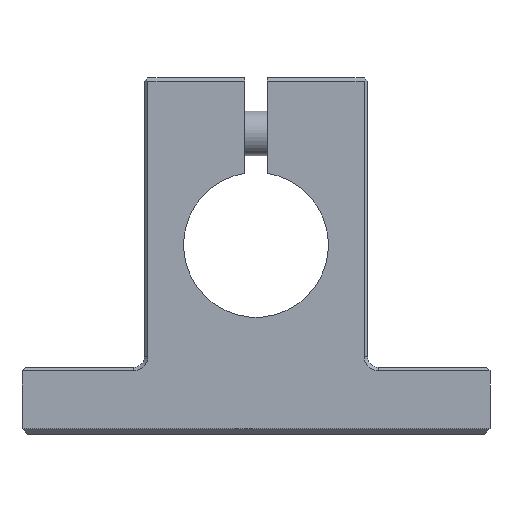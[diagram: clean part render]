
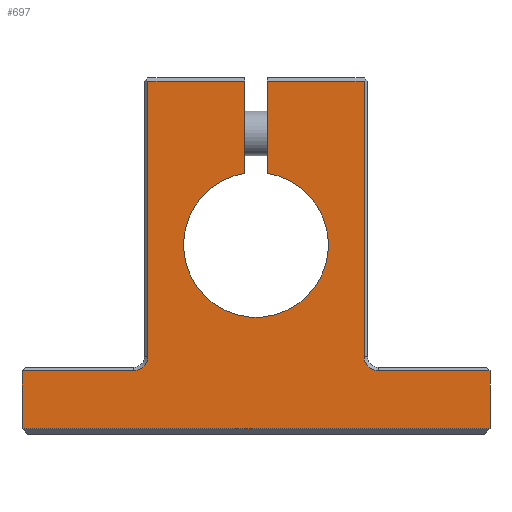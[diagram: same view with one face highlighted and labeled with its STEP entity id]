
A CAD part, left-side view. The second image highlights one B-rep face of the part: STEP entity #697.
In plain terms, the highlighted planar face has unit normal (-1, 0, 0).
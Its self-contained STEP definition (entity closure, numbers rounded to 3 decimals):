
#441=CARTESIAN_POINT('',(0.0,-21.0,-16.5));
#442=VERTEX_POINT('',#441);
#443=CARTESIAN_POINT('',(0.0,21.0,-16.5));
#444=VERTEX_POINT('',#443);
#445=CARTESIAN_POINT('',(0.0,-21.0,-16.5));
#446=DIRECTION('',(0.0,1.0,0.0));
#447=VECTOR('',#446,42.0);
#448=LINE('',#445,#447);
#449=EDGE_CURVE('',#442,#444,#448,.T.);
#566=CARTESIAN_POINT('',(0.0,21.0,-11.3));
#567=VERTEX_POINT('',#566);
#568=CARTESIAN_POINT('',(0.0,21.0,-16.5));
#569=DIRECTION('',(0.0,0.0,1.0));
#570=VECTOR('',#569,5.2);
#571=LINE('',#568,#570);
#572=EDGE_CURVE('',#444,#567,#571,.T.);
#591=CARTESIAN_POINT('',(0.0,0.,-2.748));
#592=DIRECTION('',(1.0,0.0,0.0));
#593=DIRECTION('',(0.0,0.0,-1.0));
#594=AXIS2_PLACEMENT_3D('',#591,#592,#593);
#595=PLANE('',#594);
#596=ORIENTED_EDGE('',*,*,#449,.F.);
#597=CARTESIAN_POINT('',(0.0,-21.0,-11.3));
#598=VERTEX_POINT('',#597);
#599=CARTESIAN_POINT('',(0.0,-21.0,-11.3));
#600=DIRECTION('',(0.0,0.0,-1.0));
#601=VECTOR('',#600,5.2);
#602=LINE('',#599,#601);
#603=EDGE_CURVE('',#598,#442,#602,.T.);
#604=ORIENTED_EDGE('',*,*,#603,.F.);
#605=CARTESIAN_POINT('',(0.0,-11.0,-11.3));
#606=VERTEX_POINT('',#605);
#607=CARTESIAN_POINT('',(0.0,-11.0,-11.3));
#608=DIRECTION('',(0.0,-1.0,0.0));
#609=VECTOR('',#608,10.0);
#610=LINE('',#607,#609);
#611=EDGE_CURVE('',#606,#598,#610,.T.);
#612=ORIENTED_EDGE('',*,*,#611,.F.);
#613=CARTESIAN_POINT('',(0.0,-9.7,-10.));
#614=VERTEX_POINT('',#613);
#615=CARTESIAN_POINT('',(0.0,-11.0,-10.));
#616=DIRECTION('',(-1.,0.0,0.0));
#617=DIRECTION('',(0.0,0.707,-0.707));
#618=AXIS2_PLACEMENT_3D('',#615,#616,#617);
#619=CIRCLE('',#618,1.3);
#620=EDGE_CURVE('',#614,#606,#619,.T.);
#621=ORIENTED_EDGE('',*,*,#620,.F.);
#622=CARTESIAN_POINT('',(0.0,-9.7,14.7));
#623=VERTEX_POINT('',#622);
#624=CARTESIAN_POINT('',(0.0,-9.7,14.7));
#625=DIRECTION('',(0.0,0.0,-1.0));
#626=VECTOR('',#625,24.7);
#627=LINE('',#624,#626);
#628=EDGE_CURVE('',#623,#614,#627,.T.);
#629=ORIENTED_EDGE('',*,*,#628,.F.);
#630=CARTESIAN_POINT('',(0.0,-1.,14.7));
#631=VERTEX_POINT('',#630);
#632=CARTESIAN_POINT('',(0.0,-1.,14.7));
#633=DIRECTION('',(0.0,-1.0,0.0));
#634=VECTOR('',#633,8.7);
#635=LINE('',#632,#634);
#636=EDGE_CURVE('',#631,#623,#635,.T.);
#637=ORIENTED_EDGE('',*,*,#636,.F.);
#638=CARTESIAN_POINT('',(0.0,-1.,6.423));
#639=VERTEX_POINT('',#638);
#640=CARTESIAN_POINT('',(0.0,-1.,6.423));
#641=DIRECTION('',(0.0,0.0,1.0));
#642=VECTOR('',#641,8.277);
#643=LINE('',#640,#642);
#644=EDGE_CURVE('',#639,#631,#643,.T.);
#645=ORIENTED_EDGE('',*,*,#644,.F.);
#646=CARTESIAN_POINT('',(0.0,1.,6.423));
#647=VERTEX_POINT('',#646);
#648=CARTESIAN_POINT('',(0.0,0.0,0.0));
#649=DIRECTION('',(-1.0,0.0,0.0));
#650=DIRECTION('',(0.0,-1.0,0.0));
#651=AXIS2_PLACEMENT_3D('',#648,#649,#650);
#652=CIRCLE('',#651,6.5);
#653=EDGE_CURVE('',#647,#639,#652,.T.);
#654=ORIENTED_EDGE('',*,*,#653,.F.);
#655=CARTESIAN_POINT('',(0.0,1.,14.7));
#656=VERTEX_POINT('',#655);
#657=CARTESIAN_POINT('',(0.0,1.,14.7));
#658=DIRECTION('',(0.0,0.0,-1.0));
#659=VECTOR('',#658,8.277);
#660=LINE('',#657,#659);
#661=EDGE_CURVE('',#656,#647,#660,.T.);
#662=ORIENTED_EDGE('',*,*,#661,.F.);
#663=CARTESIAN_POINT('',(0.0,9.7,14.7));
#664=VERTEX_POINT('',#663);
#665=CARTESIAN_POINT('',(0.0,9.7,14.7));
#666=DIRECTION('',(0.0,-1.0,0.0));
#667=VECTOR('',#666,8.7);
#668=LINE('',#665,#667);
#669=EDGE_CURVE('',#664,#656,#668,.T.);
#670=ORIENTED_EDGE('',*,*,#669,.F.);
#671=CARTESIAN_POINT('',(0.0,9.7,-10.0));
#672=VERTEX_POINT('',#671);
#673=CARTESIAN_POINT('',(0.0,9.7,-10.0));
#674=DIRECTION('',(0.0,0.0,1.0));
#675=VECTOR('',#674,24.7);
#676=LINE('',#673,#675);
#677=EDGE_CURVE('',#672,#664,#676,.T.);
#678=ORIENTED_EDGE('',*,*,#677,.F.);
#679=CARTESIAN_POINT('',(0.0,11.0,-11.3));
#680=VERTEX_POINT('',#679);
#681=CARTESIAN_POINT('',(0.0,11.0,-10.0));
#682=DIRECTION('',(-1.0,0.0,0.0));
#683=DIRECTION('',(0.0,-0.707,-0.707));
#684=AXIS2_PLACEMENT_3D('',#681,#682,#683);
#685=CIRCLE('',#684,1.3);
#686=EDGE_CURVE('',#680,#672,#685,.T.);
#687=ORIENTED_EDGE('',*,*,#686,.F.);
#688=CARTESIAN_POINT('',(0.0,21.0,-11.3));
#689=DIRECTION('',(0.0,-1.0,0.0));
#690=VECTOR('',#689,10.0);
#691=LINE('',#688,#690);
#692=EDGE_CURVE('',#567,#680,#691,.T.);
#693=ORIENTED_EDGE('',*,*,#692,.F.);
#694=ORIENTED_EDGE('',*,*,#572,.F.);
#695=EDGE_LOOP('',(#596,#604,#612,#621,#629,#637,#645,#654,#662,#670,#678,#687,#693,#694));
#696=FACE_OUTER_BOUND('',#695,.T.);
#697=ADVANCED_FACE('',(#696),#595,.F.);
